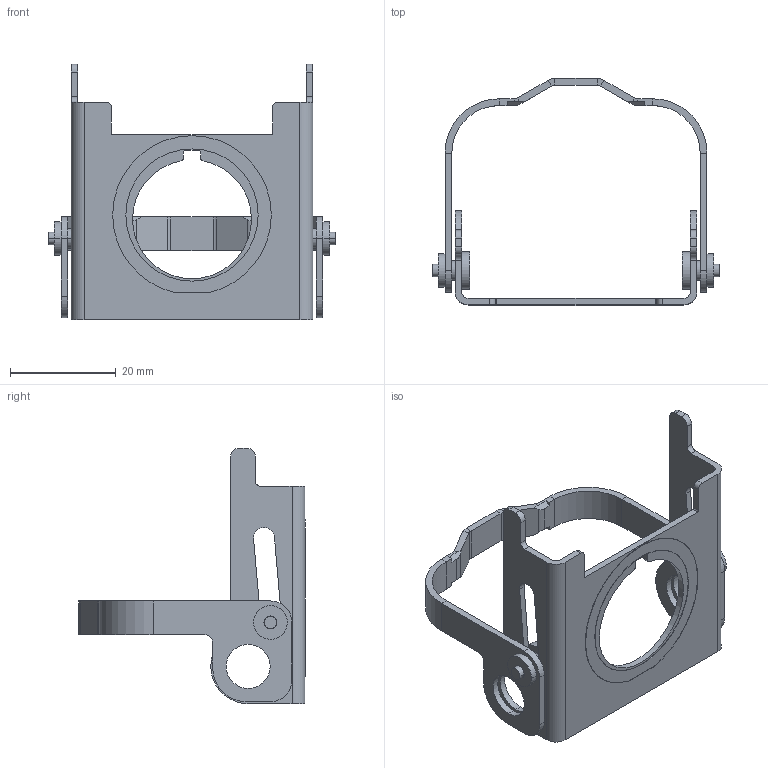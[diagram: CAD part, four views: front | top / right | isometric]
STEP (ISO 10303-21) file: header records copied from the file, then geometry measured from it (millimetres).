
FILE_DESCRIPTION((''),'2;1');
FILE_NAME('40359-514-04_ASM','2012-11-01T',('eyli1'),('Rockwell Automation'),'PRO/ENGINEER BY PARAMETRIC TECHNOLOGY CORPORATION, 2010140','PRO/ENGINEER BY PARAMETRIC TECHNOLOGY CORPORATION, 2010140','');
FILE_SCHEMA(('CONFIG_CONTROL_DESIGN'));
Length unit declared in the file: inch
Products named in the file (6): 40359-353; 40359-352; 40371-284-MOM; 40271-145; 40359-333_1; 40359-514-04_ASM
Assembly tree (7 placements, depth 2):
  40359-514-04_ASM
    40359-353
    40359-352
    40371-284-MOM  x2
    40271-145  x2
    40359-333_1
Bounding box: 54.31 x 42.91 x 48.31 mm (x, y, z)
Surface area: 8182.3 mm2 (no closed solid volume)
Topology: 0 solids, 7 shells, 243 faces, 620 edges, 400 vertices
Faces by surface type: plane 157, cylinder 82, torus 4
Entity records: 7057 total; most frequent: CARTESIAN_POINT 1210, DIRECTION 1206, ORIENTED_EDGE 1172, EDGE_CURVE 586, VECTOR 434, LINE 434, AXIS2_PLACEMENT_3D 386, VERTEX_POINT 378
